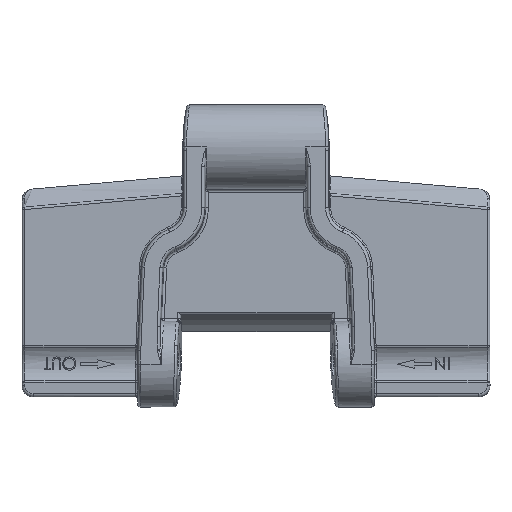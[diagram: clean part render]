
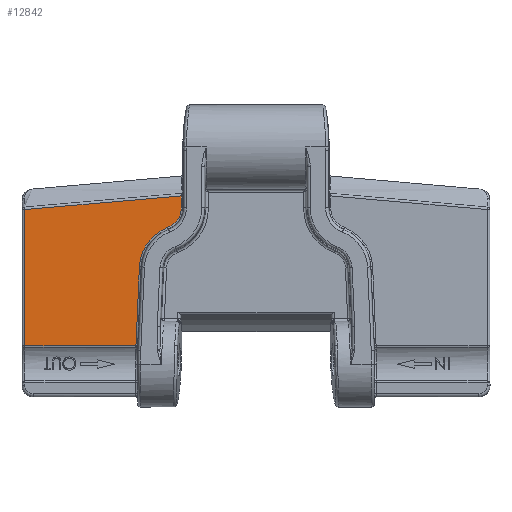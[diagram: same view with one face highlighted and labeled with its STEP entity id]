
A CAD part, front view. The second image highlights one B-rep face of the part: STEP entity #12842.
In plain terms, the highlighted planar face has unit normal (0, -1, 0).
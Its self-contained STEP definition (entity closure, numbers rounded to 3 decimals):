
#546 = DIRECTION ( 'NONE',  ( 0., 1., 0. ) ) ;
#560 = DIRECTION ( 'NONE',  ( 0., 0., 1. ) ) ;
#622 = EDGE_CURVE ( 'NONE', #10922, #12321, #11404, .T. ) ;
#1166 = CARTESIAN_POINT ( 'NONE',  ( -13.172, 3.55, -16.028 ) ) ;
#1170 = CIRCLE ( 'NONE', #12781, 3.703 ) ;
#1414 = CARTESIAN_POINT ( 'NONE',  ( -21.178, 3.55, -42.438 ) ) ;
#1535 = VERTEX_POINT ( 'NONE', #1166 ) ;
#1561 = FACE_OUTER_BOUND ( 'NONE', #10753, .T. ) ;
#1687 = CARTESIAN_POINT ( 'NONE',  ( -21.162, 3.55, -42.439 ) ) ;
#1695 = CIRCLE ( 'NONE', #9217, 7.797 ) ;
#1757 = ORIENTED_EDGE ( 'NONE', *, *, #9885, .T. ) ;
#1888 = DIRECTION ( 'NONE',  ( 0., -1., 0. ) ) ;
#2073 = CARTESIAN_POINT ( 'NONE',  ( -13.172, 3.55, -18.137 ) ) ;
#2099 = EDGE_CURVE ( 'NONE', #10633, #2262, #1170, .T. ) ;
#2128 = LINE ( 'NONE', #6226, #5653 ) ;
#2174 = CARTESIAN_POINT ( 'NONE',  ( -21.179, 3.55, -42.438 ) ) ;
#2262 = VERTEX_POINT ( 'NONE', #2073 ) ;
#2678 = EDGE_CURVE ( 'NONE', #12321, #3046, #13244, .T. ) ;
#2776 = ORIENTED_EDGE ( 'NONE', *, *, #12223, .T. ) ;
#2974 = VECTOR ( 'NONE', #9343, 1000. ) ;
#2982 = DIRECTION ( 'NONE',  ( 0., 1., 0. ) ) ;
#3046 = VERTEX_POINT ( 'NONE', #1687 ) ;
#3358 = ORIENTED_EDGE ( 'NONE', *, *, #11296, .T. ) ;
#3457 = AXIS2_PLACEMENT_3D ( 'NONE', #9776, #546, #4645 ) ;
#4051 = ORIENTED_EDGE ( 'NONE', *, *, #12334, .T. ) ;
#4645 = DIRECTION ( 'NONE',  ( 0., 0., 1. ) ) ;
#4664 = VERTEX_POINT ( 'NONE', #9964 ) ;
#4753 = LINE ( 'NONE', #8861, #5322 ) ;
#4870 = VERTEX_POINT ( 'NONE', #7259 ) ;
#5231 = CARTESIAN_POINT ( 'NONE',  ( -20.555, 3.55, -28.537 ) ) ;
#5268 = CARTESIAN_POINT ( 'NONE',  ( -15.552, 3.55, -21.595 ) ) ;
#5322 = VECTOR ( 'NONE', #13003, 1000. ) ;
#5510 = CARTESIAN_POINT ( 'NONE',  ( -21.17, 3.55, -42.439 ) ) ;
#5650 = PLANE ( 'NONE',  #3457 ) ;
#5653 = VECTOR ( 'NONE', #10348, 1000. ) ;
#5668 = LINE ( 'NONE', #9790, #11253 ) ;
#5981 = DIRECTION ( 'NONE',  ( 0., 0., 1. ) ) ;
#6226 = CARTESIAN_POINT ( 'NONE',  ( -40.75, 3.55, -8. ) ) ;
#6274 = DIRECTION ( 'NONE',  ( 1., 0., 0. ) ) ;
#6967 = ORIENTED_EDGE ( 'NONE', *, *, #2678, .T. ) ;
#7084 = DIRECTION ( 'NONE',  ( 0., 0., 1. ) ) ;
#7254 = CARTESIAN_POINT ( 'NONE',  ( -21.186, 3.55, -42.438 ) ) ;
#7259 = CARTESIAN_POINT ( 'NONE',  ( -40.75, 3.55, -18.441 ) ) ;
#8861 = CARTESIAN_POINT ( 'NONE',  ( 37.44, 3.55, -11.599 ) ) ;
#9029 = ORIENTED_EDGE ( 'NONE', *, *, #11985, .T. ) ;
#9217 = AXIS2_PLACEMENT_3D ( 'NONE', #12226, #2982, #7084 ) ;
#9343 = DIRECTION ( 'NONE',  ( 0.044, 0., 0.999 ) ) ;
#9628 = CARTESIAN_POINT ( 'NONE',  ( -21.162, 3.55, -42.439 ) ) ;
#9776 = CARTESIAN_POINT ( 'NONE',  ( 37.125, 3.55, -8. ) ) ;
#9790 = CARTESIAN_POINT ( 'NONE',  ( -13.172, 3.55, -15.7 ) ) ;
#9885 = EDGE_CURVE ( 'NONE', #4870, #10922, #2128, .T. ) ;
#9964 = CARTESIAN_POINT ( 'NONE',  ( -20.555, 3.55, -28.537 ) ) ;
#10348 = DIRECTION ( 'NONE',  ( 0., 0., -1. ) ) ;
#10633 = VERTEX_POINT ( 'NONE', #5268 ) ;
#10651 = CARTESIAN_POINT ( 'NONE',  ( -21.186, 3.55, -42.438 ) ) ;
#10687 = ORIENTED_EDGE ( 'NONE', *, *, #2099, .T. ) ;
#10753 = EDGE_LOOP ( 'NONE', ( #12208, #6967, #4051, #9029, #10687, #3358, #2776, #1757 ) ) ;
#10922 = VERTEX_POINT ( 'NONE', #12528 ) ;
#11116 = CARTESIAN_POINT ( 'NONE',  ( -16.875, 3.55, -18.137 ) ) ;
#11253 = VECTOR ( 'NONE', #560, 1000. ) ;
#11296 = EDGE_CURVE ( 'NONE', #2262, #1535, #5668, .T. ) ;
#11371 = LINE ( 'NONE', #5231, #2974 ) ;
#11404 = LINE ( 'NONE', #2174, #11687 ) ;
#11687 = VECTOR ( 'NONE', #6274, 1000. ) ;
#11985 = EDGE_CURVE ( 'NONE', #4664, #10633, #1695, .T. ) ;
#12208 = ORIENTED_EDGE ( 'NONE', *, *, #622, .T. ) ;
#12223 = EDGE_CURVE ( 'NONE', #1535, #4870, #4753, .T. ) ;
#12226 = CARTESIAN_POINT ( 'NONE',  ( -12.765, 3.55, -28.877 ) ) ;
#12321 = VERTEX_POINT ( 'NONE', #7254 ) ;
#12334 = EDGE_CURVE ( 'NONE', #3046, #4664, #11371, .T. ) ;
#12528 = CARTESIAN_POINT ( 'NONE',  ( -40.75, 3.55, -42.438 ) ) ;
#12781 = AXIS2_PLACEMENT_3D ( 'NONE', #11116, #1888, #5981 ) ;
#12842 = ADVANCED_FACE ( 'NONE', ( #1561 ), #5650, .F. ) ;
#13003 = DIRECTION ( 'NONE',  ( -0.996, 0., -0.087 ) ) ;
#13244 = B_SPLINE_CURVE_WITH_KNOTS ( 'NONE', 3,
 ( #10651, #1414, #5510, #9628 ),
 .UNSPECIFIED., .F., .F.,
 ( 4, 4 ),
 ( 0., 0. ),
 .UNSPECIFIED. ) ;
